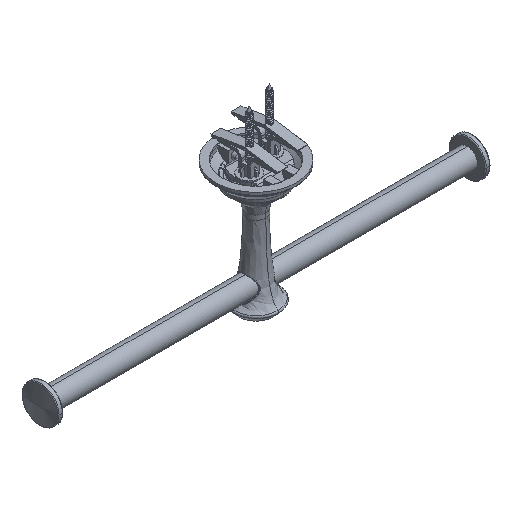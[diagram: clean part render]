
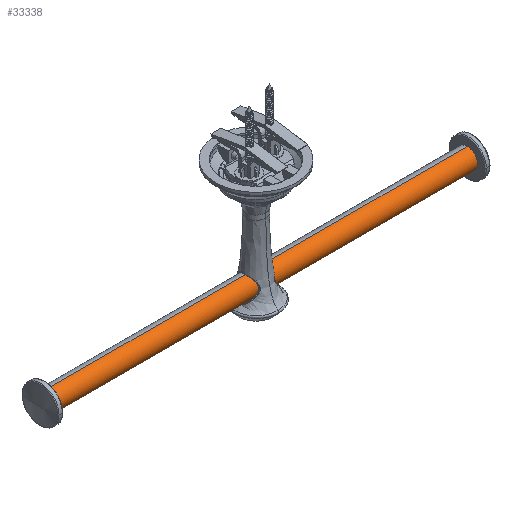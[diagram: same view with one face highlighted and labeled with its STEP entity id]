
A CAD part, isometric view. The second image highlights one B-rep face of the part: STEP entity #33338.
In plain terms, the highlighted cylindrical face has radius 7 mm (diameter 14 mm), a partial arc.
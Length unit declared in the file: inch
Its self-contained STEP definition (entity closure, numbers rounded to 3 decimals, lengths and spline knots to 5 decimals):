
#234 = AXIS2_PLACEMENT_3D ( 'NONE', #29063, #2869, #12174 ) ;
#1627 = FACE_OUTER_BOUND ( 'NONE', #13888, .T. ) ;
#1870 = CARTESIAN_POINT ( 'NONE',  ( -5.75591, 0., 0.27559 ) ) ;
#2285 = CARTESIAN_POINT ( 'NONE',  ( 0.05926, -0.07969, 0.26399 ) ) ;
#2703 = CARTESIAN_POINT ( 'NONE',  ( -0.04993, -0.08507, 0.26216 ) ) ;
#2801 = CARTESIAN_POINT ( 'NONE',  ( 5.75591, 0., 0.27559 ) ) ;
#2869 = DIRECTION ( 'NONE',  ( 1., 0., 0. ) ) ;
#2904 = CARTESIAN_POINT ( 'NONE',  ( 0.09201, -0.03491, 0.27337 ) ) ;
#3115 = CARTESIAN_POINT ( 'NONE',  ( -0.09602, -0.02514, 0.2747 ) ) ;
#3506 = VERTEX_POINT ( 'NONE', #32498 ) ;
#4276 = DIRECTION ( 'NONE',  ( 1., 0., 0. ) ) ;
#5015 = EDGE_CURVE ( 'NONE', #3506, #14761, #27235, .T. ) ;
#5459 = CARTESIAN_POINT ( 'NONE',  ( 0.09144, -0.03637, 0.27319 ) ) ;
#5863 = CARTESIAN_POINT ( 'NONE',  ( 0.02426, -0.09562, 0.25847 ) ) ;
#6276 = CARTESIAN_POINT ( 'NONE',  ( -0.08855, -0.04296, 0.27223 ) ) ;
#6421 = VERTEX_POINT ( 'NONE', #15053 ) ;
#7798 = DIRECTION ( 'NONE',  ( 1., 0., 0. ) ) ;
#8379 = ORIENTED_EDGE ( 'NONE', *, *, #32340, .T. ) ;
#9024 = ORIENTED_EDGE ( 'NONE', *, *, #19929, .T. ) ;
#9446 = CARTESIAN_POINT ( 'NONE',  ( -0.07461, -0.06454, 0.26797 ) ) ;
#10973 = LINE ( 'NONE', #20898, #25026 ) ;
#11448 = DIRECTION ( 'NONE',  ( 0., 0., 1. ) ) ;
#12174 = DIRECTION ( 'NONE',  ( 0., 0., -1. ) ) ;
#12210 = CARTESIAN_POINT ( 'NONE',  ( 0.0304, -0.09384, 0.25914 ) ) ;
#12384 = EDGE_CURVE ( 'NONE', #21159, #40285, #28497, .T. ) ;
#12615 = CARTESIAN_POINT ( 'NONE',  ( -0.01395, -0.09828, 0.25747 ) ) ;
#12828 = CARTESIAN_POINT ( 'NONE',  ( -0.08393, -0.05151, 0.27075 ) ) ;
#13860 = CARTESIAN_POINT ( 'NONE',  ( -0.09843, -0.01279, 0.27559 ) ) ;
#13888 = EDGE_LOOP ( 'NONE', ( #27745, #8379, #9024, #36997, #28248, #31778 ) ) ;
#14578 = CIRCLE ( 'NONE', #38147, 0.27559 ) ;
#14761 = VERTEX_POINT ( 'NONE', #2801 ) ;
#15053 = CARTESIAN_POINT ( 'NONE',  ( -5.75591, 0., -0.27559 ) ) ;
#15791 = CARTESIAN_POINT ( 'NONE',  ( 0.0485, -0.08661, 0.26168 ) ) ;
#15997 = CARTESIAN_POINT ( 'NONE',  ( 0.0053, -0.09849, 0.25739 ) ) ;
#16767 = EDGE_CURVE ( 'NONE', #3506, #40285, #41168, .T. ) ;
#17030 = CARTESIAN_POINT ( 'NONE',  ( -0.09843, 0., 0.27559 ) ) ;
#17164 = CARTESIAN_POINT ( 'NONE',  ( -5.75591, 0., 0. ) ) ;
#19152 = AXIS2_PLACEMENT_3D ( 'NONE', #17164, #4276, #40160 ) ;
#19168 = CARTESIAN_POINT ( 'NONE',  ( -0.08992, -0.03999, 0.27268 ) ) ;
#19195 = DIRECTION ( 'NONE',  ( 1., 0., 0. ) ) ;
#19929 = EDGE_CURVE ( 'NONE', #6421, #20568, #10973, .T. ) ;
#20568 = VERTEX_POINT ( 'NONE', #24991 ) ;
#20898 = CARTESIAN_POINT ( 'NONE',  ( -5.75591, 0., -0.27559 ) ) ;
#21159 = VERTEX_POINT ( 'NONE', #1870 ) ;
#21921 = CARTESIAN_POINT ( 'NONE',  ( -0.07865, -0.05955, 0.26913 ) ) ;
#22159 = CARTESIAN_POINT ( 'NONE',  ( -5.75591, 0., 0.27559 ) ) ;
#22343 = CARTESIAN_POINT ( 'NONE',  ( -0.08557, -0.04873, 0.27126 ) ) ;
#23936 = CARTESIAN_POINT ( 'NONE',  ( 5.75591, 0., 0. ) ) ;
#24083 = CARTESIAN_POINT ( 'NONE',  ( 0.09843, 0., 0.27559 ) ) ;
#24991 = CARTESIAN_POINT ( 'NONE',  ( 5.75591, 0., -0.27559 ) ) ;
#25026 = VECTOR ( 'NONE', #30611, 39.37008 ) ;
#25101 = CARTESIAN_POINT ( 'NONE',  ( 0.01174, -0.09794, 0.2576 ) ) ;
#25514 = CARTESIAN_POINT ( 'NONE',  ( -0.0443, -0.08812, 0.26114 ) ) ;
#25724 = CARTESIAN_POINT ( 'NONE',  ( -0.02635, -0.09572, 0.25849 ) ) ;
#26934 = VECTOR ( 'NONE', #19195, 39.37008 ) ;
#27235 = LINE ( 'NONE', #24083, #28894 ) ;
#27745 = ORIENTED_EDGE ( 'NONE', *, *, #12384, .F. ) ;
#28248 = ORIENTED_EDGE ( 'NONE', *, *, #5015, .F. ) ;
#28270 = CARTESIAN_POINT ( 'NONE',  ( 0.09588, -0.02256, 0.27468 ) ) ;
#28497 = LINE ( 'NONE', #22159, #26934 ) ;
#28894 = VECTOR ( 'NONE', #7798, 39.37008 ) ;
#29063 = CARTESIAN_POINT ( 'NONE',  ( -5.75591, 0., 0. ) ) ;
#30611 = DIRECTION ( 'NONE',  ( 1., 0., 0. ) ) ;
#31217 = CARTESIAN_POINT ( 'NONE',  ( 0.07802, -0.06147, 0.26881 ) ) ;
#31423 = CARTESIAN_POINT ( 'NONE',  ( 0.09843, 0., 0.27559 ) ) ;
#31629 = CARTESIAN_POINT ( 'NONE',  ( 0.09843, -0.00659, 0.27559 ) ) ;
#31778 = ORIENTED_EDGE ( 'NONE', *, *, #16767, .T. ) ;
#31829 = CARTESIAN_POINT ( 'NONE',  ( 0.09313, -0.03186, 0.27375 ) ) ;
#32005 = CYLINDRICAL_SURFACE ( 'NONE', #234, 0.27559 ) ;
#32039 = CARTESIAN_POINT ( 'NONE',  ( -0.0906, -0.03843, 0.2729 ) ) ;
#32340 = EDGE_CURVE ( 'NONE', #21159, #6421, #40027, .T. ) ;
#32498 = CARTESIAN_POINT ( 'NONE',  ( 0.09843, 0., 0.27559 ) ) ;
#33338 = ADVANCED_FACE ( 'NONE', ( #1627 ), #32005, .T. ) ;
#33830 = DIRECTION ( 'NONE',  ( 1., 0., 0. ) ) ;
#33888 = CARTESIAN_POINT ( 'NONE',  ( -0.09843, 0., 0.27559 ) ) ;
#35210 = CARTESIAN_POINT ( 'NONE',  ( -0.08783, -0.04442, 0.27199 ) ) ;
#36997 = ORIENTED_EDGE ( 'NONE', *, *, #39623, .F. ) ;
#37951 = CARTESIAN_POINT ( 'NONE',  ( -0.06551, -0.07375, 0.26558 ) ) ;
#38147 = AXIS2_PLACEMENT_3D ( 'NONE', #23936, #33830, #11448 ) ;
#38371 = CARTESIAN_POINT ( 'NONE',  ( -0.06051, -0.07791, 0.26437 ) ) ;
#39623 = EDGE_CURVE ( 'NONE', #14761, #20568, #14578, .T. ) ;
#40027 = CIRCLE ( 'NONE', #19152, 0.27559 ) ;
#40160 = DIRECTION ( 'NONE',  ( 0., 0., 1. ) ) ;
#40285 = VERTEX_POINT ( 'NONE', #33888 ) ;
#41128 = CARTESIAN_POINT ( 'NONE',  ( 0.09468, -0.02725, 0.27427 ) ) ;
#41168 = B_SPLINE_CURVE_WITH_KNOTS ( 'NONE', 3,
 ( #31423, #31629, #41535, #28270, #41128, #31829, #2904, #5459, #41749, #31217, #2285, #15791, #12210, #5863, #25101, #15997, #12615, #25724, #25514, #2703, #38371, #37951, #9446, #21921, #12828, #22343, #35210, #6276, #19168, #32039, #3115, #13860, #17030 ),
 .UNSPECIFIED., .F., .F.,
 ( 4, 2, 1, 2, 2, 2, 2, 2, 2, 2, 2, 2, 2, 2, 2, 2, 4 ),
 ( 0., 0.0625, 0.09375, 0.10938, 0.125, 0.25, 0.375, 0.4375, 0.5, 0.625, 0.6875, 0.75, 0.8125, 0.84375, 0.85938, 0.875, 1. ),
 .UNSPECIFIED. ) ;
#41535 = CARTESIAN_POINT ( 'NONE',  ( 0.09779, -0.01306, 0.27535 ) ) ;
#41749 = CARTESIAN_POINT ( 'NONE',  ( 0.08545, -0.05055, 0.27121 ) ) ;
